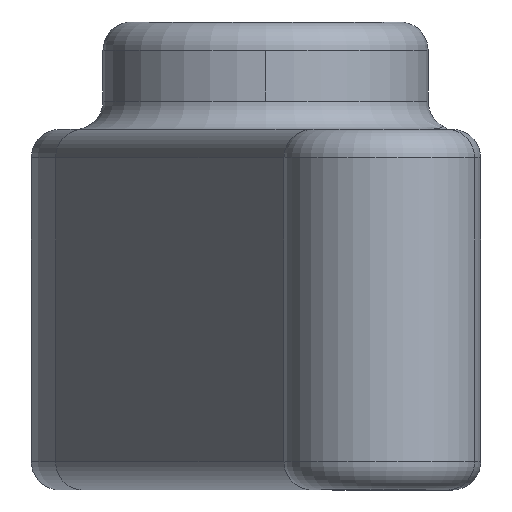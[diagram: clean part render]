
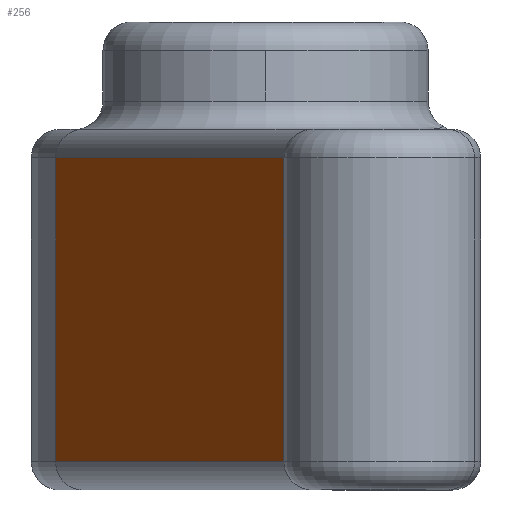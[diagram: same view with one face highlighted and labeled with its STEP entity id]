
A CAD part, left-side view. The second image highlights one B-rep face of the part: STEP entity #256.
In plain terms, the highlighted planar face has unit normal (-0.313, 0.95, 0).
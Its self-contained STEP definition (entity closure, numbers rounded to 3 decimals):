
#168 = PLANE ( 'NONE',  #780 ) ;
#256 = ADVANCED_FACE ( 'NONE', ( #1274 ), #168, .T. ) ;
#280 = LINE ( 'NONE', #1757, #1784 ) ;
#311 = DIRECTION ( 'NONE',  ( -0.91, -0.3, 0.285 ) ) ;
#365 = CARTESIAN_POINT ( 'NONE',  ( 0.753, 9.651, -23.5 ) ) ;
#535 = LINE ( 'NONE', #585, #1319 ) ;
#537 = CARTESIAN_POINT ( 'NONE',  ( 58.251, 28.589, -25.5 ) ) ;
#585 = CARTESIAN_POINT ( 'NONE',  ( 58.251, 28.589, -25.5 ) ) ;
#623 = VERTEX_POINT ( 'NONE', #647 ) ;
#647 = CARTESIAN_POINT ( 'NONE',  ( 58.251, 28.589, -2. ) ) ;
#755 = DIRECTION ( 'NONE',  ( -0.95, -0.313, 0. ) ) ;
#780 = AXIS2_PLACEMENT_3D ( 'NONE', #537, #1227, #311 ) ;
#817 = EDGE_CURVE ( 'NONE', #1323, #623, #535, .T. ) ;
#841 = ORIENTED_EDGE ( 'NONE', *, *, #2116, .T. ) ;
#863 = EDGE_LOOP ( 'NONE', ( #1640, #841, #881, #1221 ) ) ;
#877 = CARTESIAN_POINT ( 'NONE',  ( 0.753, 9.651, -2. ) ) ;
#881 = ORIENTED_EDGE ( 'NONE', *, *, #2196, .T. ) ;
#1100 = VECTOR ( 'NONE', #1924, 1000. ) ;
#1210 = VERTEX_POINT ( 'NONE', #877 ) ;
#1221 = ORIENTED_EDGE ( 'NONE', *, *, #1544, .T. ) ;
#1227 = DIRECTION ( 'NONE',  ( -0.313, 0.95, 0. ) ) ;
#1252 = VECTOR ( 'NONE', #755, 1000. ) ;
#1274 = FACE_OUTER_BOUND ( 'NONE', #863, .T. ) ;
#1319 = VECTOR ( 'NONE', #2049, 1000. ) ;
#1323 = VERTEX_POINT ( 'NONE', #1445 ) ;
#1328 = CARTESIAN_POINT ( 'NONE',  ( 0.753, 9.651, -23.5 ) ) ;
#1374 = VERTEX_POINT ( 'NONE', #1328 ) ;
#1445 = CARTESIAN_POINT ( 'NONE',  ( 58.251, 28.589, -23.5 ) ) ;
#1515 = CARTESIAN_POINT ( 'NONE',  ( 0.753, 9.651, 0. ) ) ;
#1544 = EDGE_CURVE ( 'NONE', #1210, #623, #280, .T. ) ;
#1640 = ORIENTED_EDGE ( 'NONE', *, *, #817, .F. ) ;
#1757 = CARTESIAN_POINT ( 'NONE',  ( 58.251, 28.589, -2. ) ) ;
#1784 = VECTOR ( 'NONE', #2105, 1000. ) ;
#1924 = DIRECTION ( 'NONE',  ( 0., 0., 1. ) ) ;
#2011 = LINE ( 'NONE', #365, #1252 ) ;
#2049 = DIRECTION ( 'NONE',  ( 0., 0., 1. ) ) ;
#2105 = DIRECTION ( 'NONE',  ( 0.95, 0.313, 0. ) ) ;
#2116 = EDGE_CURVE ( 'NONE', #1323, #1374, #2011, .T. ) ;
#2196 = EDGE_CURVE ( 'NONE', #1374, #1210, #2286, .T. ) ;
#2286 = LINE ( 'NONE', #1515, #1100 ) ;
